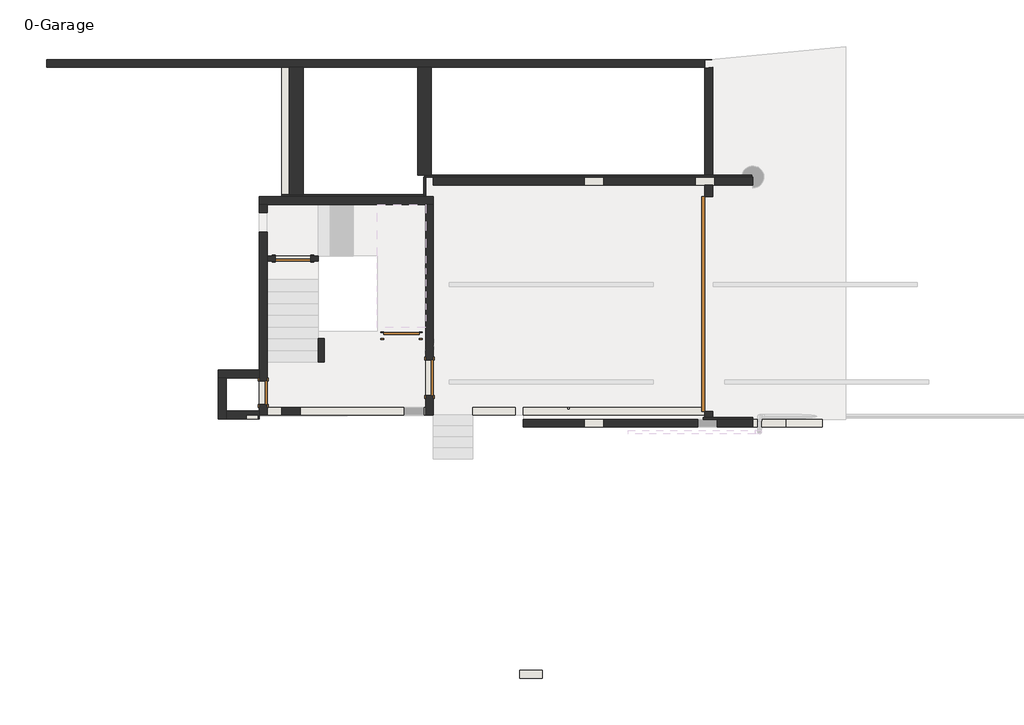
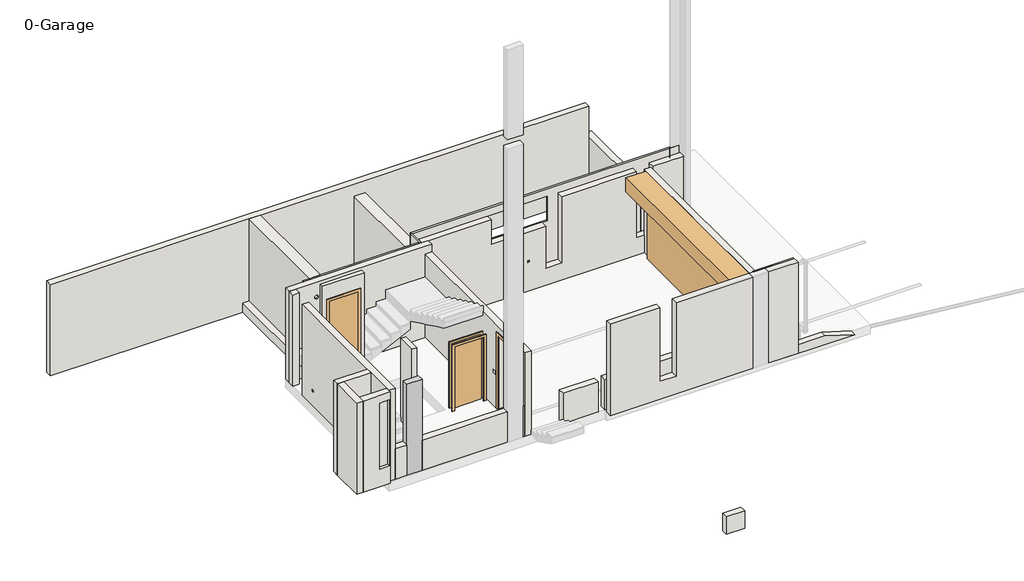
# One storey, part 1 of 2: 29 walls, 5 doors, 1 column.
"""IFC4 building model written with IfcOpenShell, lengths in millimetres."""

from ifc_helpers import new_model, si_unit, frame, origin, origin_with_axes, place, context, project, spatial, polyline, circle_curve, outline, extrude, faceted_brep, transform, mapped, element, save
from ifc_brep_helpers import plane_surface, revolved_surface, advanced_brep
from components import m_door_overhead_rolling_4200_x_4200mm_02588e11, m_single_flush_0900_x_2400mm_549ab639, m_single_flush_0900_x_2400mm_8538d4a5, m_single_flush_0900x_2100mm_532b048f, m_single_flush_600x210mm_136d0241

model = new_model("IFC4")

# Units and contexts
model_context = context("Model", 3, world=origin())
ifc_project = project(units=[si_unit("LENGTHUNIT", "METRE", prefix="MILLI")], contexts=[model_context])

# Site, building, storey
site = spatial("IfcSite", under=ifc_project)
building = spatial("IfcBuilding", under=site)
storey = spatial("IfcBuildingStorey", under=building, Name="0-Garage", Elevation=0.0)

# Column
placement = place(None, origin())
element("IfcColumn", 1, ObjectType="M_Concrete-Rectangular-Column : 200 x470mm", at=placement, inside=storey, context=model_context, shape_type="Brep", body=[
    faceted_brep([(-4492.1225101, 3134.4560655, 0.0), (-4492.1225101, 3334.4560655, 0.0), (-4022.1225101, 3334.4560655, 0.0), (-4022.1225101, 3134.4560655, 0.0), (-4492.1225101, 3134.4560655, 3000.0), (-4492.1225101, 3334.4560655, 3000.0), (-4022.1225101, 3334.4560655, 3000.0), (-4022.1225101, 3334.4560655, 1000.0), (-4022.1225101, 3134.4560655, 3000.0), (-4022.1225101, 3134.4560655, 1000.0)], [[[0, 1, 2, 3]], [[4, 5, 1, 0]], [[5, 6, 7, 2, 1]], [[6, 8, 9, 3, 2, 7]], [[8, 4, 0, 3, 9]], [[4, 8, 6, 5]]]),
])

# Doors
m_door_overhead_rolling_4200_x_4200mm_shape = m_door_overhead_rolling_4200_x_4200mm_02588e11(model_context)
element("IfcDoor", 2, ObjectType="M_Door-Overhead-Rolling : 4200 x 4200mm", at=placement, inside=storey, context=model_context, shape_type="MappedRepresentation", body=[
    mapped(m_door_overhead_rolling_4200_x_4200mm_shape, transform((6387.8774899, 5968.0590764, 0.0), x_axis=(0.0, 1.0, 0.0), y_axis=(-1.0, 0.0, 0.0), z_axis=(0.0, 0.0, 1.0))),
])
m_single_flush_0900_x_2400mm_shape = m_single_flush_0900_x_2400mm_549ab639(model_context)
element("IfcDoor", 3, ObjectType="M_Single-Flush : 0900 x 2400mm", at=placement, inside=storey, context=model_context, shape_type="MappedRepresentation", body=[
    mapped(m_single_flush_0900_x_2400mm_shape, transform((-4202.4410951, 7124.4560655, 1000.0), x_axis=(-1.0, 0.0, 0.0), y_axis=(0.0, -1.0, 0.0), z_axis=(0.0, 0.0, 1.0))),
])
m_single_flush_0900_x_2400mm_2_shape = m_single_flush_0900_x_2400mm_8538d4a5(model_context)
element("IfcDoor", 4, ObjectType="M_Single-Flush : 0900 x 2400mm", at=placement, inside=storey, context=model_context, shape_type="MappedRepresentation", body=[
    mapped(m_single_flush_0900_x_2400mm_2_shape, transform((-727.4765921, 4091.9560655, 50.0), x_axis=(0.0, -1.0, 0.0), y_axis=(1.0, 0.0, 0.0), z_axis=(0.0, 0.0, 1.0))),
])
m_single_flush_0900x_2100mm_shape = m_single_flush_0900x_2100mm_532b048f(model_context)
element("IfcDoor", 5, ObjectType="M_Single-Flush : 0900x 2100mm", at=placement, inside=storey, context=model_context, shape_type="MappedRepresentation", body=[
    mapped(m_single_flush_0900x_2100mm_shape, transform((-1442.4765921, 5159.4560655, 50.0), x_axis=(1.0, 0.0, 0.0), y_axis=(0.0, 1.0, 0.0), z_axis=(0.0, 0.0, 1.0))),
])
m_single_flush_600x210mm_shape = m_single_flush_600x210mm_136d0241(model_context)
element("IfcDoor", 6, ObjectType="M_Single-Flush : 600x210mm", at=placement, inside=storey, context=model_context, shape_type="MappedRepresentation", body=[
    mapped(m_single_flush_600x210mm_shape, transform((-4957.4765921, 3709.4560655, 50.0), x_axis=(0.0, -1.0, 0.0), y_axis=(1.0, 0.0, 0.0), z_axis=(0.0, 0.0, 1.0))),
])

# Walls
element("IfcWall", 7, ObjectType="Generic - 200mm", at=placement, inside=storey, context=model_context, shape_type="Brep", body=[
    faceted_brep([(6287.8774899, 11981.7733975, 0.0), (6287.8774899, 9201.6620874, 0.0), (6287.8774899, 9201.6620874, 2000.0), (6287.8774899, 12199.6307767, 2000.0), (6287.8774899, 12199.6307767, 1800.0), (6287.8774899, 12182.7092562, 1800.0), (6287.8774899, 11981.7733975, 1800.0), (6487.8774899, 12001.1439758, 0.0), (6487.8774899, 12001.1439758, 1800.0), (6487.8774899, 12199.6307767, 1800.0), (6487.8774899, 12199.6307767, 2000.0), (6487.8774899, 9201.6620874, 2000.0), (6487.8774899, 9201.6620874, 0.0), (6462.5911227, 12199.6307767, 1800.0)], [[[0, 1, 2, 3, 4, 5, 6]], [[7, 8, 9, 10, 11, 12]], [[1, 0, 7, 12]], [[3, 2, 11, 10]], [[0, 6, 8, 7]], [[4, 3, 10, 9, 13]], [[4, 13, 9, 8, 6, 5]], [[2, 1, 12, 11]]]),
])
element("IfcWall", 8, ObjectType="Generic - 200mm", at=placement, inside=storey, context=model_context, shape_type="Brep", body=[
    faceted_brep([(7512.5234079, 9201.6620874, 0.0), (6487.8774899, 9201.6620874, 0.0), (6287.8774899, 9201.6620874, 0.0), (-627.4765921, 9201.6620874, 0.0), (-627.4765921, 9201.6620874, 2750.0), (1517.2356902, 9201.6620874, 2750.0), (1517.2356902, 9201.6620874, 1950.0), (3212.5234079, 9201.6620874, 1950.0), (3212.5234079, 9201.6620874, 571.2417781), (3712.5234079, 9201.6620874, 571.2417781), (3712.5234079, 9201.6620874, 2750.0), (6042.5234079, 9201.6620874, 2750.0), (6042.5234079, 9201.6620874, 580.0), (6542.5234079, 9201.6620874, 580.0), (6542.5234079, 9201.6620874, 2750.0), (7512.5234079, 9201.6620874, 2750.0), (-627.4765921, 9001.6620874, 0.0), (6287.8774899, 9001.6620874, 0.0), (6487.8774899, 9001.6620874, 0.0), (7512.5234079, 9001.6620874, 0.0), (7512.5234079, 9001.6620874, 2750.0), (6542.5234079, 9001.6620874, 2750.0), (6542.5234079, 9001.6620874, 580.0), (6042.5234079, 9001.6620874, 580.0), (6042.5234079, 9001.6620874, 2750.0), (3712.5234079, 9001.6620874, 2750.0), (3712.5234079, 9001.6620874, 571.2417781), (3212.5234079, 9001.6620874, 571.2417781), (3212.5234079, 9001.6620874, 1950.0), (1517.2356902, 9001.6620874, 1950.0), (1517.2356902, 9001.6620874, 2750.0), (-627.4765921, 9001.6620874, 2750.0), (2650.2004489, 9001.6620874, 950.0), (2650.2004489, 9001.6620874, 1010.0), (2710.2004489, 9001.6620874, 1010.0), (2710.2004489, 9001.6620874, 950.0), (2650.2004489, 9051.6620874, 950.0), (2710.2004489, 9051.6620874, 950.0), (2710.2004489, 9051.6620874, 1010.0), (2650.2004489, 9051.6620874, 1010.0)], [[[0, 1, 2, 3, 4, 5, 6, 7, 8, 9, 10, 11, 12, 13, 14, 15]], [[16, 17, 18, 19, 20, 21, 22, 23, 24, 25, 26, 27, 28, 29, 30, 31], [32, 33, 34, 35]], [[3, 2, 1, 0, 19, 18, 17, 16]], [[4, 3, 16, 31]], [[4, 31, 30, 5]], [[20, 15, 14, 21]], [[24, 11, 10, 25]], [[0, 15, 20, 19]], [[6, 29, 28, 7]], [[29, 6, 5, 30]], [[36, 37, 38, 39]], [[36, 39, 33, 32]], [[39, 38, 34, 33]], [[38, 37, 35, 34]], [[37, 36, 32, 35]], [[22, 13, 12, 23]], [[13, 22, 21, 14]], [[23, 12, 11, 24]], [[26, 9, 8, 27]], [[9, 26, 25, 10]], [[27, 8, 7, 28]]]),
])
element("IfcWall", 9, ObjectType="Generic - 200mm", at=placement, inside=storey, context=model_context, shape_type="AdvancedBrep", body=[
    advanced_brep(
    [(-627.4765921, 8701.6620874, 0.0), (-5057.4765921, 8701.6620874, 0.0), (-5057.4765921, 8701.6620874, 3000.0), (-877.4765921, 8701.6620874, 3000.0), (-827.4765921, 8701.6620874, 3000.0), (-627.4765921, 8701.6620874, 3000.0), (-5057.4765921, 8501.6620874, 0.0), (-4857.4765921, 8501.6620874, 0.0), (-827.4765921, 8501.6620874, 0.0), (-627.4765921, 8501.6620874, 0.0), (-627.4765921, 8501.6620874, 2750.0), (-627.4765921, 8501.6620874, 3000.0), (-827.4765921, 8501.6620874, 3000.0), (-4857.4765921, 8501.6620874, 3000.0), (-5057.4765921, 8501.6620874, 3000.0), (-4152.4765921, 8501.6620874, 2515.7894737), (-4262.4765921, 8501.6620874, 2515.7894737), (-4262.4765921, 8539.7620874, 2515.7894737), (-4152.4765921, 8539.7620874, 2515.7894737)],
    [
        (0, 1),
        (1, 2),
        (2, 3),
        (3, 4),
        (4, 5),
        (5, 0),
        (6, 7),
        (7, 8),
        (8, 9),
        (9, 10),
        (10, 11),
        (11, 12),
        (12, 13),
        (13, 14),
        (14, 6),
        (15, 16, circle_curve(frame((-4207.4765921, 8501.6620874, 2515.7894737), z_axis=(0.0, 1.0, 0.0), x_axis=(1.0, 0.0, 0.0)), 55.0)),
        (16, 15, circle_curve(frame((-4207.4765921, 8501.6620874, 2515.7894737), z_axis=(0.0, 1.0, 0.0), x_axis=(1.0, 0.0, 0.0)), 55.0)),
        (0, 9),
        (6, 1),
        (2, 14),
        (11, 5),
        (17, 18, circle_curve(frame((-4207.4765921, 8539.7620874, 2515.7894737), z_axis=(0.0, -1.0, 0.0), x_axis=(1.0, 0.0, 0.0)), 55.0)),
        (18, 17, circle_curve(frame((-4207.4765921, 8539.7620874, 2515.7894737), z_axis=(0.0, -1.0, 0.0), x_axis=(1.0, 0.0, 0.0)), 55.0)),
        (17, 16),
        (15, 18),
    ],
    [
        plane_surface(frame((-262.1225101, 8701.6620874, 0.0), z_axis=(0.0, 1.0, 0.0), x_axis=(-1.0, 0.0, 0.0))),
        plane_surface(frame((-262.1225101, 8501.6620874, 0.0), z_axis=(0.0, -1.0, 0.0), x_axis=(1.0, 0.0, 0.0))),
        plane_surface(frame((-727.4765921, 8701.6620874, 0.0), z_axis=(0.0, 0.0, -1.0), x_axis=(0.0, -1.0, 0.0))),
        plane_surface(frame((-4957.4765921, 8701.6620874, 3000.0), z_axis=(0.0, 0.0, 1.0), x_axis=(0.0, -1.0, 0.0))),
        plane_surface(frame((-5057.4765921, 8301.6620874, 0.0), z_axis=(-1.0, 0.0, 0.0), x_axis=(0.0, -1.0, 0.0))),
        plane_surface(frame((-4152.4765921, 8539.7620874, 2515.7894737), z_axis=(0.0, -1.0, 0.0), x_axis=(0.0, 0.0, -1.0))),
        revolved_surface(polyline([(-4152.4765921, 8501.6620874, 2515.7894737), (-4152.4765921, 8539.7620874, 2515.7894737)]), (-4207.4765921, 8539.7620874, 2515.7894737), (0.0, -1.0, 0.0)),
        plane_surface(frame((-627.4765921, 8101.6620874, 0.0), z_axis=(1.0, 0.0, 0.0), x_axis=(0.0, 1.0, 0.0))),
    ],
    [
        (0, [[1, 2, 3, 4, 5, 6]]),
        (1, [[7, 8, 9, 10, 11, 12, 13, 14, 15], [16, 17]]),
        (2, [[-1, 18, -9, -8, -7, 19]]),
        (3, [[-5, -4, -3, 20, -14, -13, -12, 21]]),
        (4, [[-2, -19, -15, -20]]),
        (5, [[22, 23]]),
        (6, [[-22, 24, -16, 25]]),
        (6, [[-23, -25, -17, -24]]),
        (7, [[-6, -21, -11, -10, -18]]),
    ],
),
])
element("IfcWall", 10, ObjectType="Generic - 200mm", at=placement, inside=storey, context=model_context, shape_type="SweptSolid", body=[
    extrude(outline(polyline([(-4022.1225101, 3134.4560655), (-4022.1225101, 3334.4560655), (-1367.4765921, 3334.4560655), (-1367.4765921, 3134.4560655), (-4022.1225101, 3134.4560655)])), origin_with_axes(), (0.0, 0.0, 1.0), 1000.0),
])
element("IfcWall", 11, ObjectType="Generic - 200mm", at=placement, inside=storey, context=model_context, shape_type="Brep", body=[
    faceted_brep([(-827.4765921, 8501.6620874, 0.0), (-827.4765921, 3334.4560655, 0.0), (-827.4765921, 3134.4560655, 0.0), (-827.4765921, 3134.4560655, 1000.0), (-827.4765921, 3134.4560655, 2750.0), (-827.4765921, 5084.4560655, 2750.0), (-827.4765921, 5234.4560655, 2750.0), (-827.4765921, 8501.6620874, 2750.0), (-827.4765921, 4541.9560655, 50.0), (-827.4765921, 4541.9560655, 2475.0), (-827.4765921, 3641.9560655, 2475.0), (-827.4765921, 3641.9560655, 50.0), (-827.4765921, 6944.4560655, 420.0), (-827.4765921, 6944.4560655, 480.0), (-827.4765921, 6884.4560655, 480.0), (-827.4765921, 6884.4560655, 420.0), (-827.4765921, 4784.4560655, 1120.0), (-827.4765921, 4784.4560655, 1180.0), (-827.4765921, 4724.4560655, 1180.0), (-827.4765921, 4724.4560655, 1120.0), (-627.4765921, 3134.4560655, 0.0), (-627.4765921, 8501.6620874, 0.0), (-627.4765921, 8501.6620874, 2750.0), (-627.4765921, 3134.4560655, 2750.0), (-627.4765921, 3134.4560655, 580.0), (-627.4765921, 4541.9560655, 50.0), (-627.4765921, 3641.9560655, 50.0), (-627.4765921, 3641.9560655, 2475.0), (-627.4765921, 4541.9560655, 2475.0), (-627.4765921, 4994.4560655, 420.0), (-627.4765921, 4994.4560655, 480.0), (-627.4765921, 5054.4560655, 480.0), (-627.4765921, 5054.4560655, 420.0), (-627.4765921, 5204.4560655, 1700.0), (-627.4765921, 5204.4560655, 1760.0), (-627.4765921, 5264.4560655, 1760.0), (-627.4765921, 5264.4560655, 1700.0), (-627.4765921, 5004.4560655, 1700.0), (-627.4765921, 5004.4560655, 1760.0), (-627.4765921, 5064.4560655, 1760.0), (-627.4765921, 5064.4560655, 1700.0), (-627.4765921, 4824.4560655, 1120.0), (-627.4765921, 4824.4560655, 1180.0), (-627.4765921, 4884.4560655, 1180.0), (-627.4765921, 4884.4560655, 1120.0), (-627.4765921, 5404.4560655, 1700.0), (-627.4765921, 5404.4560655, 1760.0), (-627.4765921, 5464.4560655, 1760.0), (-627.4765921, 5464.4560655, 1700.0), (-777.4765921, 6944.4560655, 420.0), (-777.4765921, 6884.4560655, 420.0), (-777.4765921, 6884.4560655, 480.0), (-777.4765921, 6944.4560655, 480.0), (-677.4765921, 4994.4560655, 420.0), (-677.4765921, 5054.4560655, 420.0), (-677.4765921, 5054.4560655, 480.0), (-677.4765921, 4994.4560655, 480.0), (-777.4765921, 4784.4560655, 1120.0), (-777.4765921, 4724.4560655, 1120.0), (-777.4765921, 4724.4560655, 1180.0), (-777.4765921, 4784.4560655, 1180.0), (-677.4765921, 5204.4560655, 1700.0), (-677.4765921, 5264.4560655, 1700.0), (-677.4765921, 5264.4560655, 1760.0), (-677.4765921, 5204.4560655, 1760.0), (-677.4765921, 5004.4560655, 1700.0), (-677.4765921, 5064.4560655, 1700.0), (-677.4765921, 5064.4560655, 1760.0), (-677.4765921, 5004.4560655, 1760.0), (-677.4765921, 4824.4560655, 1120.0), (-677.4765921, 4884.4560655, 1120.0), (-677.4765921, 4884.4560655, 1180.0), (-677.4765921, 4824.4560655, 1180.0), (-677.4765921, 5404.4560655, 1700.0), (-677.4765921, 5464.4560655, 1700.0), (-677.4765921, 5464.4560655, 1760.0), (-677.4765921, 5404.4560655, 1760.0)], [[[0, 1, 2, 3, 4, 5, 6, 7], [8, 9, 10, 11], [12, 13, 14, 15], [16, 17, 18, 19]], [[20, 21, 22, 23, 24], [25, 26, 27, 28], [29, 30, 31, 32], [33, 34, 35, 36], [37, 38, 39, 40], [41, 42, 43, 44], [45, 46, 47, 48]], [[2, 1, 0, 21, 20]], [[7, 6, 5, 4, 23, 22]], [[26, 25, 8, 11]], [[27, 26, 11, 10]], [[28, 27, 10, 9]], [[25, 28, 9, 8]], [[4, 3, 2, 20, 24, 23]], [[49, 50, 51, 52]], [[49, 52, 13, 12]], [[52, 51, 14, 13]], [[51, 50, 15, 14]], [[50, 49, 12, 15]], [[53, 54, 55, 56]], [[53, 56, 30, 29]], [[56, 55, 31, 30]], [[55, 54, 32, 31]], [[54, 53, 29, 32]], [[57, 58, 59, 60]], [[57, 60, 17, 16]], [[60, 59, 18, 17]], [[59, 58, 19, 18]], [[58, 57, 16, 19]], [[61, 62, 63, 64]], [[61, 64, 34, 33]], [[64, 63, 35, 34]], [[63, 62, 36, 35]], [[62, 61, 33, 36]], [[65, 66, 67, 68]], [[65, 68, 38, 37]], [[68, 67, 39, 38]], [[67, 66, 40, 39]], [[66, 65, 37, 40]], [[69, 70, 71, 72]], [[69, 72, 42, 41]], [[72, 71, 43, 42]], [[71, 70, 44, 43]], [[70, 69, 41, 44]], [[73, 74, 75, 76]], [[73, 76, 46, 45]], [[76, 75, 47, 46]], [[75, 74, 48, 47]], [[74, 73, 45, 48]], [[0, 7, 22, 21]]]),
])
element("IfcWall", 12, ObjectType="Generic - 200mm", at=placement, inside=storey, context=model_context, shape_type="SweptSolid", body=[
    extrude(outline(polyline([(2146.2825594, -3573.4614511), (1577.4433408, -3573.4614511), (1577.4433408, -3373.4614511), (2146.2825594, -3373.4614511), (2146.2825594, -3573.4614511)])), origin_with_axes(), (0.0, 0.0, 1.0), 580.0),
])
element("IfcWall", 13, ObjectType="Generic - 200mm", at=placement, inside=storey, context=model_context, shape_type="Brep", body=[
    faceted_brep([(-10479.3966327, 11999.6307767, 0.0), (-4492.1225101, 11999.6307767, 0.0), (-4292.1225101, 11999.6307767, 0.0), (-3942.1225101, 11999.6307767, 0.0), (-1027.4765921, 11999.6307767, 0.0), (-677.4765921, 11999.6307767, 0.0), (6287.8774899, 11999.6307767, 0.0), (6287.8774899, 11999.6307767, 1800.0), (6287.8774899, 11999.6307767, 3000.0), (-3942.1225101, 11999.6307767, 3000.0), (-4292.1225101, 11999.6307767, 3000.0), (-10479.3966327, 11999.6307767, 3000.0), (6462.5911227, 12199.6307767, 0.0), (-10479.3966327, 12199.6307767, 0.0), (-10479.3966327, 12199.6307767, 3000.0), (6287.8774899, 12199.6307767, 3000.0), (6287.8774899, 12199.6307767, 2000.0), (6287.8774899, 12199.6307767, 1800.0), (6462.5911227, 12199.6307767, 1800.0), (6287.8774899, 12182.7092562, 0.0), (6287.8774899, 12182.7092562, 1800.0)], [[[0, 1, 2, 3, 4, 5, 6, 7, 8, 9, 10, 11]], [[12, 13, 14, 15, 16, 17, 18]], [[6, 5, 4, 3, 2, 1, 0, 13, 12, 19]], [[11, 10, 9, 8, 15, 14]], [[0, 11, 14, 13]], [[19, 12, 18, 20]], [[18, 17, 20]], [[6, 19, 20, 7]], [[8, 7, 20, 17, 16, 15]]]),
])
element("IfcWall", 14, ObjectType="Generic - 200mm", at=placement, inside=storey, context=model_context, shape_type="SweptSolid", body=[
    extrude(outline(polyline([(-4492.1225101, 8751.6620874), (-4492.1225101, 11999.6307767), (-4292.1225101, 11999.6307767), (-4292.1225101, 8751.6620874), (-4492.1225101, 8751.6620874)])), origin_with_axes(), (0.0, 0.0, 1.0), 300.0),
])
element("IfcWall", 15, ObjectType="Generic - 200mm", at=placement, inside=storey, context=model_context, shape_type="Brep", body=[
    faceted_brep([(6287.8774899, 3030.6486583, 2750.0), (6287.8774899, 9001.6620874, 2750.0), (6287.8774899, 9001.6620874, 0.0), (6287.8774899, 8701.6620874, 0.0), (6287.8774899, 8701.6620874, 2290.5236894), (6287.8774899, 3234.4560655, 2290.5236894), (6287.8774899, 3234.4560655, 0.0), (6287.8774899, 3030.6486583, 0.0), (6487.8774899, 9001.6620874, 2750.0), (6487.8774899, 3030.6486583, 2750.0), (6487.8774899, 3030.6486583, 0.0), (6487.8774899, 3234.4560655, 0.0), (6487.8774899, 3234.4560655, 2290.5236894), (6487.8774899, 8701.6620874, 2290.5236894), (6487.8774899, 8701.6620874, 0.0), (6487.8774899, 9001.6620874, 0.0), (6437.8774899, 3234.4560655, 1990.5236894), (6437.8774899, 3234.4560655, 2050.5236894), (6377.8774899, 3234.4560655, 2050.5236894), (6377.8774899, 3234.4560655, 1990.5236894), (6437.8774899, 3184.4560655, 1990.5236894), (6377.8774899, 3184.4560655, 1990.5236894), (6377.8774899, 3184.4560655, 2050.5236894), (6437.8774899, 3184.4560655, 2050.5236894)], [[[0, 1, 2, 3, 4, 5, 6, 7]], [[8, 9, 10, 11, 12, 13, 14, 15]], [[7, 6, 11, 10]], [[14, 3, 2, 15]], [[1, 0, 9, 8]], [[6, 5, 12, 11], [16, 17, 18, 19]], [[12, 5, 4, 13]], [[4, 3, 14, 13]], [[0, 7, 10, 9]], [[20, 21, 22, 23]], [[20, 23, 17, 16]], [[23, 22, 18, 17]], [[22, 21, 19, 18]], [[21, 20, 16, 19]], [[2, 1, 8, 15]]]),
])
element("IfcWall", 16, ObjectType="Generic - 200mm", at=placement, inside=storey, context=model_context, shape_type="SweptSolid", body=[
    extrude(outline(polyline([(-5057.4765921, 8301.6620874), (-5057.4765921, 8501.6620874), (-4857.4765921, 8501.6620874), (-4857.4765921, 8301.6620874), (-5057.4765921, 8301.6620874)])), origin_with_axes(), (0.0, 0.0, 1.0), 3000.0),
])
element("IfcWall", 17, ObjectType="Generic - 200mm", at=placement, inside=storey, context=model_context, shape_type="AdvancedBrep", body=[
    advanced_brep(
    [(-5057.4765921, 7801.6620874, 0.0), (-5057.4765921, 4284.4560655, 0.0), (-5057.4765921, 4084.4560655, 0.0), (-5057.4765921, 3242.4258078, 0.0), (-5057.4765921, 3134.4560655, 0.0), (-5057.4765921, 3134.4560655, 3000.0), (-5057.4765921, 3242.4258078, 3000.0), (-5057.4765921, 4084.4560655, 3000.0), (-5057.4765921, 4284.4560655, 3000.0), (-5057.4765921, 7801.6620874, 3000.0), (-5057.4765921, 7264.4560655, 471.0), (-5057.4765921, 7264.4560655, 531.0), (-5057.4765921, 7204.4560655, 531.0), (-5057.4765921, 7204.4560655, 471.0), (-5057.4765921, 3409.4560655, 50.0), (-5057.4765921, 4009.4560655, 50.0), (-5057.4765921, 4009.4560655, 2150.0), (-5057.4765921, 3409.4560655, 2150.0), (-4857.4765921, 3134.4560655, 0.0), (-4857.4765921, 3334.4560655, 0.0), (-4857.4765921, 7801.6620874, 0.0), (-4857.4765921, 7801.6620874, 3000.0), (-4857.4765921, 3134.4560655, 3000.0), (-4857.4765921, 3134.4560655, 1000.0), (-4857.4765921, 5074.4560655, 1700.0), (-4857.4765921, 5074.4560655, 1760.0), (-4857.4765921, 5134.4560655, 1760.0), (-4857.4765921, 5134.4560655, 1700.0), (-4857.4765921, 6201.0955313, 2530.8695982), (-4857.4765921, 6091.0955313, 2530.8695982), (-4857.4765921, 4009.4560655, 50.0), (-4857.4765921, 3409.4560655, 50.0), (-4857.4765921, 3409.4560655, 2150.0), (-4857.4765921, 4009.4560655, 2150.0), (-5007.4765921, 7264.4560655, 471.0), (-5007.4765921, 7204.4560655, 471.0), (-5007.4765921, 7204.4560655, 531.0), (-5007.4765921, 7264.4560655, 531.0), (-4907.4765921, 5074.4560655, 1700.0), (-4907.4765921, 5134.4560655, 1700.0), (-4907.4765921, 5134.4560655, 1760.0), (-4907.4765921, 5074.4560655, 1760.0), (-4895.5765921, 6091.0955313, 2530.8695982), (-4895.5765921, 6201.0955313, 2530.8695982)],
    [
        (0, 1),
        (1, 2),
        (2, 3),
        (3, 4),
        (4, 5),
        (5, 6),
        (6, 7),
        (7, 8),
        (8, 9),
        (9, 0),
        (10, 11),
        (11, 12),
        (12, 13),
        (13, 10),
        (14, 15),
        (15, 16),
        (16, 17),
        (17, 14),
        (18, 19),
        (19, 20),
        (20, 21),
        (21, 22),
        (22, 23),
        (23, 18),
        (24, 25),
        (25, 26),
        (26, 27),
        (27, 24),
        (28, 29, circle_curve(frame((-4857.4765921, 6146.0955313, 2530.8695982), z_axis=(-1.0, 0.0, 0.0), x_axis=(0.0, 1.0, 0.0)), 55.0)),
        (29, 28, circle_curve(frame((-4857.4765921, 6146.0955313, 2530.8695982), z_axis=(-1.0, 0.0, 0.0), x_axis=(0.0, 1.0, 0.0)), 55.0)),
        (30, 31),
        (31, 32),
        (32, 33),
        (33, 30),
        (0, 20),
        (18, 4),
        (5, 22),
        (21, 9),
        (34, 35),
        (35, 36),
        (36, 37),
        (37, 34),
        (37, 11),
        (10, 34),
        (36, 12),
        (35, 13),
        (38, 39),
        (39, 40),
        (40, 41),
        (41, 38),
        (41, 25),
        (24, 38),
        (40, 26),
        (39, 27),
        (42, 43, circle_curve(frame((-4895.5765921, 6146.0955313, 2530.8695982), z_axis=(1.0, 0.0, 0.0), x_axis=(0.0, 1.0, 0.0)), 55.0)),
        (43, 42, circle_curve(frame((-4895.5765921, 6146.0955313, 2530.8695982), z_axis=(1.0, 0.0, 0.0), x_axis=(0.0, 1.0, 0.0)), 55.0)),
        (42, 29),
        (28, 43),
        (30, 15),
        (14, 31),
        (17, 32),
        (33, 16),
    ],
    [
        plane_surface(frame((-5057.4765921, 8301.6620874, 0.0), z_axis=(-1.0, 0.0, 0.0), x_axis=(0.0, -1.0, 0.0))),
        plane_surface(frame((-4857.4765921, 8301.6620874, 0.0), z_axis=(1.0, 0.0, 0.0), x_axis=(0.0, 1.0, 0.0))),
        plane_surface(frame((-5057.4765921, 7801.6620874, 0.0), z_axis=(0.0, 0.0, -1.0), x_axis=(1.0, 0.0, 0.0))),
        plane_surface(frame((-5057.4765921, 3034.4560655, 3000.0), z_axis=(0.0, 0.0, 1.0), x_axis=(1.0, 0.0, 0.0))),
        plane_surface(frame((-5057.4765921, 7801.6620874, 3000.0), z_axis=(0.0, 1.0, 0.0), x_axis=(1.0, 0.0, 0.0))),
        plane_surface(frame((-5105.9369299, 3134.4560655, 580.0), z_axis=(0.0, -1.0, 0.0), x_axis=(-1.0, 0.0, 0.0))),
        plane_surface(frame((-5007.4765921, 7264.4560655, 471.0), z_axis=(-1.0, 0.0, 0.0), x_axis=(0.0, 0.0, 1.0))),
        plane_surface(frame((-5007.4765921, 7264.4560655, 471.0), z_axis=(0.0, -1.0, 0.0), x_axis=(-1.0, 0.0, 0.0))),
        plane_surface(frame((-5007.4765921, 7264.4560655, 531.0), z_axis=(0.0, 0.0, -1.0), x_axis=(-1.0, 0.0, 0.0))),
        plane_surface(frame((-5007.4765921, 7204.4560655, 531.0), z_axis=(0.0, 1.0, 0.0), x_axis=(-1.0, 0.0, 0.0))),
        plane_surface(frame((-5007.4765921, 7204.4560655, 471.0), z_axis=(0.0, 0.0, 1.0), x_axis=(-1.0, 0.0, 0.0))),
        plane_surface(frame((-4907.4765921, 5074.4560655, 1700.0), z_axis=(1.0, 0.0, 0.0), x_axis=(0.0, 0.0, 1.0))),
        plane_surface(frame((-4907.4765921, 5074.4560655, 1700.0), z_axis=(0.0, 1.0, 0.0), x_axis=(1.0, 0.0, 0.0))),
        plane_surface(frame((-4907.4765921, 5074.4560655, 1760.0), z_axis=(0.0, 0.0, -1.0), x_axis=(1.0, 0.0, 0.0))),
        plane_surface(frame((-4907.4765921, 5134.4560655, 1760.0), z_axis=(0.0, -1.0, 0.0), x_axis=(1.0, 0.0, 0.0))),
        plane_surface(frame((-4907.4765921, 5134.4560655, 1700.0), z_axis=(0.0, 0.0, 1.0), x_axis=(1.0, 0.0, 0.0))),
        plane_surface(frame((-4895.5765921, 6201.0955313, 2530.8695982), z_axis=(1.0, 0.0, 0.0), x_axis=(0.0, 0.0, -1.0))),
        revolved_surface(polyline([(-4857.4765921, 6201.0955313, 2530.8695982), (-4895.5765921, 6201.0955313, 2530.8695982)]), (-4895.5765921, 6146.0955313, 2530.8695982), (1.0, 0.0, 0.0)),
        plane_surface(frame((-6581.4765921, 4009.4560655, 50.0), z_axis=(0.0, 0.0, 1.0), x_axis=(1.0, 0.0, 0.0))),
        plane_surface(frame((-6581.4765921, 3409.4560655, 50.0), z_axis=(0.0, 1.0, 0.0), x_axis=(1.0, 0.0, 0.0))),
        plane_surface(frame((-6581.4765921, 4009.4560655, 2150.0), z_axis=(0.0, -1.0, 0.0), x_axis=(1.0, 0.0, 0.0))),
        plane_surface(frame((-6581.4765921, 3409.4560655, 2150.0), z_axis=(0.0, 0.0, -1.0), x_axis=(1.0, 0.0, 0.0))),
    ],
    [
        (0, [[1, 2, 3, 4, 5, 6, 7, 8, 9, 10], [11, 12, 13, 14], [15, 16, 17, 18]]),
        (1, [[19, 20, 21, 22, 23, 24], [25, 26, 27, 28], [29, 30], [31, 32, 33, 34]]),
        (2, [[-4, -3, -2, -1, 35, -20, -19, 36]]),
        (3, [[-9, -8, -7, -6, 37, -22, 38]]),
        (4, [[-10, -38, -21, -35]]),
        (5, [[-36, -24, -23, -37, -5]]),
        (6, [[39, 40, 41, 42]]),
        (7, [[-42, 43, -11, 44]]),
        (8, [[-41, 45, -12, -43]]),
        (9, [[-40, 46, -13, -45]]),
        (10, [[-39, -44, -14, -46]]),
        (11, [[47, 48, 49, 50]]),
        (12, [[-50, 51, -25, 52]]),
        (13, [[-49, 53, -26, -51]]),
        (14, [[-48, 54, -27, -53]]),
        (15, [[-47, -52, -28, -54]]),
        (16, [[55, 56]]),
        (17, [[-55, 57, -29, 58]]),
        (17, [[-56, -58, -30, -57]]),
        (18, [[59, -15, 60, -31]]),
        (19, [[-60, -18, 61, -32]]),
        (20, [[-59, -34, 62, -16]]),
        (21, [[-62, -33, -61, -17]]),
    ],
),
])
element("IfcWall", 18, ObjectType="Generic - 200mm", at=placement, inside=storey, context=model_context, shape_type="Brep", body=[
    faceted_brep([(-5057.4765921, 4284.4560655, 0.0), (-6107.4765921, 4284.4560655, 0.0), (-6107.4765921, 4284.4560655, 3000.0), (-5057.4765921, 4284.4560655, 3000.0), (-5057.4765921, 4084.4560655, 0.0), (-5057.4765921, 4084.4560655, 3000.0), (-5907.4765921, 4084.4560655, 3000.0), (-6107.4765921, 4084.4560655, 3000.0), (-6107.4765921, 4084.4560655, 0.0), (-5907.4765921, 4084.4560655, 0.0)], [[[0, 1, 2, 3]], [[4, 5, 6, 7, 8, 9]], [[1, 0, 4, 9, 8]], [[3, 2, 7, 6, 5]], [[2, 1, 8, 7]], [[0, 3, 5, 4]]]),
])
element("IfcWall", 19, ObjectType="Generic - 200mm", at=placement, inside=storey, context=model_context, shape_type="Brep", body=[
    faceted_brep([(-6107.4765921, 4084.4560655, 0.0), (-6107.4765921, 3042.4258078, 0.0), (-6107.4765921, 3042.4258078, 3000.0), (-6107.4765921, 3326.4863231, 3000.0), (-6107.4765921, 4084.4560655, 3000.0), (-5907.4765921, 4084.4560655, 0.0), (-5907.4765921, 4084.4560655, 3000.0), (-5907.4765921, 3326.4863231, 3000.0), (-5907.4765921, 3242.4258078, 3000.0), (-5907.4765921, 3042.4258078, 3000.0), (-5907.4765921, 3042.4258078, 0.0), (-5907.4765921, 3242.4258078, 0.0)], [[[0, 1, 2, 3, 4]], [[5, 6, 7, 8, 9, 10, 11]], [[1, 0, 5, 11, 10]], [[4, 3, 2, 9, 8, 7, 6]], [[0, 4, 6, 5]], [[2, 1, 10, 9]]]),
])
element("IfcWall", 20, ObjectType="Generic - 200mm", at=placement, inside=storey, context=model_context, shape_type="Brep", body=[
    faceted_brep([(-5057.4765921, 3242.4258078, 0.0), (-5907.4765921, 3242.4258078, 0.0), (-5907.4765921, 3242.4258078, 3000.0), (-5057.4765921, 3242.4258078, 3000.0), (-5907.4765921, 3042.4258078, 0.0), (-5057.4765921, 3042.4258078, 0.0), (-5057.4765921, 3042.4258078, 3000.0), (-5907.4765921, 3042.4258078, 3000.0), (-5389.3079857, 3042.4258078, 580.0), (-5389.3079857, 3042.4258078, 2750.0), (-5089.2819927, 3042.4258078, 2750.0), (-5089.2819927, 3042.4258078, 580.0), (-5057.4765921, 3134.4560655, 0.0), (-5057.4765921, 3134.4560655, 3000.0), (-5390.5194836, 3134.4560655, 580.0), (-5390.5194836, 3134.4560655, 2750.0), (-5090.4934906, 3134.4560655, 2750.0), (-5090.4934906, 3134.4560655, 580.0)], [[[0, 1, 2, 3]], [[4, 5, 6, 7], [8, 9, 10, 11]], [[1, 0, 12, 5, 4]], [[3, 2, 7, 6, 13]], [[2, 1, 4, 7]], [[14, 15, 9, 8]], [[16, 17, 11, 10]], [[17, 14, 8, 11]], [[15, 16, 10, 9]], [[15, 14, 17, 16]], [[3, 13, 6, 5, 12, 0]]]),
])
element("IfcWall", 21, ObjectType="Generic - 200mm", at=placement, inside=storey, context=model_context, shape_type="Brep", body=[
    faceted_brep([(6287.8774899, 3334.4560655, 0.0), (1667.8774899, 3334.4560655, 0.0), (1667.8774899, 3334.4560655, 1000.0), (2782.5234079, 3334.4560655, 1000.0), (2782.5234079, 3334.4560655, 950.0), (2842.5234079, 3334.4560655, 950.0), (2842.5234079, 3334.4560655, 1000.0), (6287.8774899, 3334.4560655, 1000.0), (1667.8774899, 3134.4560655, 0.0), (6287.8774899, 3134.4560655, 0.0), (6287.8774899, 3134.4560655, 1000.0), (1667.8774899, 3134.4560655, 1000.0), (2842.5234079, 3284.4560655, 1000.0), (2782.5234079, 3284.4560655, 1000.0), (2842.5234079, 3284.4560655, 950.0), (2782.5234079, 3284.4560655, 950.0)], [[[0, 1, 2, 3, 4, 5, 6, 7]], [[8, 9, 10, 11]], [[1, 0, 9, 8]], [[2, 1, 8, 11]], [[11, 10, 7, 6, 12, 13, 3, 2]], [[0, 7, 10, 9]], [[14, 15, 13, 12]], [[5, 14, 12, 6]], [[15, 4, 3, 13]], [[15, 14, 5, 4]]]),
])
element("IfcWall", 22, ObjectType="Generic - 200mm", at=placement, inside=storey, context=model_context, shape_type="SweptSolid", body=[
    extrude(outline(polyline([(1462.5234079, 3134.4560655), (372.5234079, 3134.4560655), (372.5234079, 3334.4560655), (1462.5234079, 3334.4560655), (1462.5234079, 3134.4560655)])), origin_with_axes(), (0.0, 0.0, 1.0), 1000.0),
])
element("IfcWall", 23, ObjectType="Generic - 200mm", at=placement, inside=storey, context=model_context, shape_type="SweptSolid", body=[
    extrude(outline(polyline([(-4857.4765921, 3334.4560655), (-4492.1225101, 3334.4560655), (-4492.1225101, 3134.4560655), (-4857.4765921, 3134.4560655), (-4857.4765921, 3334.4560655)])), origin_with_axes(), (0.0, 0.0, 1.0), 1000.0),
])
element("IfcWall", 24, ObjectType="Generic - 200mm", at=placement, inside=storey, context=model_context, shape_type="SweptSolid", body=[
    extrude(outline(polyline([(-867.4765921, 3334.4560655), (-827.4765921, 3334.4560655), (-827.4765921, 3134.4560655), (-867.4765921, 3134.4560655), (-867.4765921, 3334.4560655)])), origin_with_axes(), (0.0, 0.0, 1.0), 1000.0),
])
element("IfcWall", 25, ObjectType="Generic - 200mm - Filled", at=placement, inside=storey, context=model_context, shape_type="Brep", body=[
    faceted_brep([(7147.8774899, 3030.6486583, 0.0), (7147.8774899, 3030.6486583, 280.0), (8347.87749, 3030.6486583, 280.0), (9278.7209388, 3030.6486583, 0.0), (7147.8774899, 2830.6486583, 0.0), (9278.7209388, 2830.6486583, 0.0), (8347.87749, 2830.6486583, 280.0), (7147.8774899, 2830.6486583, 280.0), (7147.8774899, 2980.6486583, 0.0)], [[[0, 1, 2, 3]], [[4, 5, 6, 7]], [[0, 3, 5, 4, 8]], [[1, 0, 8, 4, 7]], [[2, 1, 7, 6]], [[3, 2, 6, 5]]]),
])
element("IfcWall", 26, ObjectType="Generic - 200mm - Filled", at=placement, inside=storey, context=model_context, shape_type="SweptSolid", body=[
    extrude(outline(polyline([(3000.0, 1662.5234079), (0.0, 1662.5234079), (0.0, 6105.5234079), (3000.0, 6105.5234079), (3000.0, 3712.5234079), (580.0, 3712.5234079), (580.0, 3212.5234079), (3000.0, 3212.5234079), (3000.0, 1662.5234079)])), frame((0.0, 2830.6486583, 0.0), z_axis=(0.0, 1.0, 0.0), x_axis=(0.0, 0.0, 1.0)), (0.0, 0.0, 1.0), 200.0),
    extrude(outline(polyline([(7512.5234079, 3030.6486583), (7512.5234079, 2830.6486583), (6605.5234079, 2830.6486583), (6605.5234079, 3030.6486583), (7512.5234079, 3030.6486583)])), origin_with_axes(), (0.0, 0.0, 1.0), 3000.0),
])
element("IfcWall", 27, ObjectType="Generic -120mm", at=placement, inside=storey, context=model_context, shape_type="SweptSolid", body=[
    extrude(outline(polyline([(950.0, -4857.4765921), (950.0, -3557.4765921), (3968.1818182, -3557.4765921), (3968.1818182, -4857.4765921), (950.0, -4857.4765921)]), holes=[polyline([(1000.0, -3752.4410951), (1000.0, -4652.4410951), (3425.0, -4652.4410951), (3425.0, -3752.4410951), (1000.0, -3752.4410951)])]), frame((0.0, 7064.4560655, 0.0), z_axis=(0.0, 1.0, 0.0), x_axis=(0.0, 0.0, 1.0)), (0.0, 0.0, 1.0), 120.0),
])
element("IfcWall", 28, ObjectType="Generic -150mm", at=placement, inside=storey, context=model_context, shape_type="Brep", body=[
    faceted_brep([(-3557.4765921, 5084.4560655, 0.0), (-3557.4765921, 4484.4560655, 0.0), (-3557.4765921, 4484.4560655, 3000.0), (-3557.4765921, 5084.4560655, 3000.0), (-3407.4765921, 5084.4560655, 0.0), (-3407.4765921, 5084.4560655, 3000.0), (-3407.4765921, 4484.4560655, 3000.0), (-3407.4765921, 4484.4560655, 0.0), (-3437.4833892, 5084.4560655, 3000.0)], [[[0, 1, 2, 3]], [[4, 5, 6, 7]], [[1, 0, 4, 7]], [[2, 1, 7, 6]], [[3, 2, 6, 5, 8]], [[0, 3, 8, 5, 4]]]),
])
element("IfcWall", 29, ObjectType="exterior stone walls", at=placement, inside=storey, context=model_context, shape_type="Brep", body=[
    faceted_brep([(-877.4765921, 9201.6620874, -300.0), (-877.4765921, 8751.6620874, -300.0), (-877.4765921, 8701.6620874, -300.0), (-877.4765921, 8701.6620874, 0.0), (-877.4765921, 8701.6620874, 3000.0), (-877.4765921, 8751.6620874, 3000.0), (-877.4765921, 9201.6620874, 3000.0), (-827.4765921, 8701.6620874, -300.0), (-827.4765921, 9201.6620874, -300.0), (-827.4765921, 9201.6620874, 0.0), (-827.4765921, 9201.6620874, 3000.0), (-827.4765921, 8701.6620874, 3000.0), (-827.4765921, 8701.6620874, 0.0), (-852.4765921, 9201.6620874, -300.0), (-852.4765921, 9201.6620874, 3000.0)], [[[0, 1, 2, 3, 4, 5, 6]], [[7, 8, 9, 10, 11, 12]], [[2, 1, 0, 13, 8, 7]], [[6, 5, 4, 11, 10, 14]], [[2, 7, 12, 11, 4, 3]], [[0, 6, 14, 10, 9, 8, 13]]]),
])
element("IfcWall", 30, ObjectType="exterior stone walls", at=placement, inside=storey, context=model_context, shape_type="Brep", body=[
    faceted_brep([(-877.4765921, 8751.6620874, -300.0), (-4492.1225101, 8751.6620874, -300.0), (-4492.1225101, 8751.6620874, 0.0), (-4492.1225101, 8751.6620874, 300.0), (-4492.1225101, 8751.6620874, 3000.0), (-4292.1225101, 8751.6620874, 3000.0), (-3942.1225101, 8751.6620874, 3000.0), (-877.4765921, 8751.6620874, 3000.0), (-877.4765921, 8701.6620874, -300.0), (-877.4765921, 8701.6620874, 3000.0), (-4492.1225101, 8701.6620874, 3000.0), (-4492.1225101, 8701.6620874, -300.0)], [[[0, 1, 2, 3, 4, 5, 6, 7]], [[8, 9, 10, 11]], [[1, 0, 8, 11]], [[7, 6, 5, 4, 10, 9]], [[4, 3, 2, 1, 11, 10]], [[0, 7, 9, 8]]]),
])
element("IfcWall", 31, ObjectType="exterior stone walls", at=placement, inside=storey, context=model_context, shape_type="Brep", body=[
    faceted_brep([(7477.6214133, 9251.6620874, -300.0), (-852.4765921, 9251.6620874, -300.0), (-852.4765921, 9251.6620874, 3000.0), (7477.6214133, 9251.6620874, 3000.0), (1475.0321009, 9251.6620874, 2750.0), (1475.0321009, 9251.6620874, 1950.0), (3387.8774899, 9251.6620874, 1950.0), (3387.8774899, 9251.6620874, 2750.0), (-400.7265921, 9251.6620874, 1915.0), (-400.7265921, 9251.6620874, 1975.0), (-460.7265921, 9251.6620874, 1975.0), (-460.7265921, 9251.6620874, 1915.0), (5987.8774899, 9251.6620874, 2046.0), (5987.8774899, 9251.6620874, 2106.0), (5927.8774899, 9251.6620874, 2106.0), (5927.8774899, 9251.6620874, 2046.0), (-852.4765921, 9201.6620874, -300.0), (-827.4765921, 9201.6620874, -300.0), (7477.6214133, 9201.6620874, -300.0), (7477.6214133, 9201.6620874, 3000.0), (-827.4765921, 9201.6620874, 3000.0), (-852.4765921, 9201.6620874, 3000.0), (1475.0321009, 9201.6620874, 1950.0), (1475.0321009, 9201.6620874, 2750.0), (3387.8774899, 9201.6620874, 2750.0), (3387.8774899, 9201.6620874, 1950.0), (-400.7265921, 9201.6620874, 1975.0), (-400.7265921, 9201.6620874, 1915.0), (-460.7265921, 9201.6620874, 1915.0), (-460.7265921, 9201.6620874, 1975.0), (5987.8774899, 9201.6620874, 2106.0), (5987.8774899, 9201.6620874, 2046.0), (5927.8774899, 9201.6620874, 2046.0), (5927.8774899, 9201.6620874, 2106.0)], [[[0, 1, 2, 3], [4, 5, 6, 7], [8, 9, 10, 11], [12, 13, 14, 15]], [[16, 17, 18, 19, 20, 21], [22, 23, 24, 25], [26, 27, 28, 29], [30, 31, 32, 33]], [[1, 0, 18, 17, 16]], [[2, 1, 16, 21]], [[3, 2, 21, 20, 19]], [[0, 3, 19, 18]], [[5, 4, 23, 22]], [[6, 5, 22, 25]], [[7, 6, 25, 24]], [[4, 7, 24, 23]], [[26, 9, 8, 27]], [[9, 26, 29, 10]], [[10, 29, 28, 11]], [[27, 8, 11, 28]], [[30, 13, 12, 31]], [[13, 30, 33, 14]], [[14, 33, 32, 15]], [[31, 12, 15, 32]]]),
])
element("IfcWall", 32, ObjectType="exterior stone walls", at=placement, inside=storey, context=model_context, shape_type="Brep", body=[
    faceted_brep([(7147.8774899, 3030.6486583, 0.0), (6588.6974876, 3030.6486583, 0.0), (6588.6974876, 3030.6486583, 330.0), (7147.8774899, 3030.6486583, 330.0), (7147.8774899, 3030.6486583, 280.0), (7147.8774899, 2980.6486583, 0.0), (7147.8774899, 2980.6486583, 330.0), (6588.6974876, 2980.6486583, 330.0), (6588.6974876, 2980.6486583, 0.0)], [[[0, 1, 2, 3, 4]], [[5, 6, 7, 8]], [[1, 0, 5, 8]], [[2, 1, 8, 7]], [[3, 2, 7, 6]], [[0, 4, 3, 6, 5]]]),
])
element("IfcWall", 33, ObjectType="exterior stone walls", at=placement, inside=storey, context=model_context, shape_type="SweptSolid", body=[
    extrude(outline(polyline([(6247.8774899, 3080.6486583), (7512.5234079, 3080.6486583), (7512.5234079, 3030.6486583), (6247.8774899, 3030.6486583), (6247.8774899, 3080.6486583)])), origin_with_axes(), (0.0, 0.0, 1.0), 3000.0),
])
element("IfcWall", 34, ObjectType="special", at=placement, inside=storey, context=model_context, shape_type="Brep", body=[
    faceted_brep([(-4292.1225101, 11999.6307767, 0.0), (-4292.1225101, 8751.6620874, 0.0), (-4292.1225101, 8751.6620874, 3000.0), (-4292.1225101, 9201.6620874, 3000.0), (-4292.1225101, 9541.6620874, 3000.0), (-4292.1225101, 11999.6307767, 3000.0), (-3942.1225101, 11999.6307767, 0.0), (-3942.1225101, 11999.6307767, 3000.0), (-3942.1225101, 9541.6620874, 3000.0), (-3942.1225101, 9201.6620874, 3000.0), (-3942.1225101, 8751.6620874, 3000.0), (-3942.1225101, 8751.6620874, 0.0)], [[[0, 1, 2, 3, 4, 5]], [[6, 7, 8, 9, 10, 11]], [[1, 0, 6, 11]], [[5, 4, 3, 2, 10, 9, 8, 7]], [[2, 1, 11, 10]], [[0, 5, 7, 6]]]),
])
element("IfcWall", 35, ObjectType="special", at=placement, inside=storey, context=model_context, shape_type="SweptSolid", body=[
    extrude(outline(polyline([(-1027.4765921, 9251.6620874), (-1027.4765921, 11999.6307767), (-677.4765921, 11999.6307767), (-677.4765921, 9251.6620874), (-1027.4765921, 9251.6620874)])), origin_with_axes(), (0.0, 0.0, 1.0), 2600.0),
])

save(model, "model.ifc")
